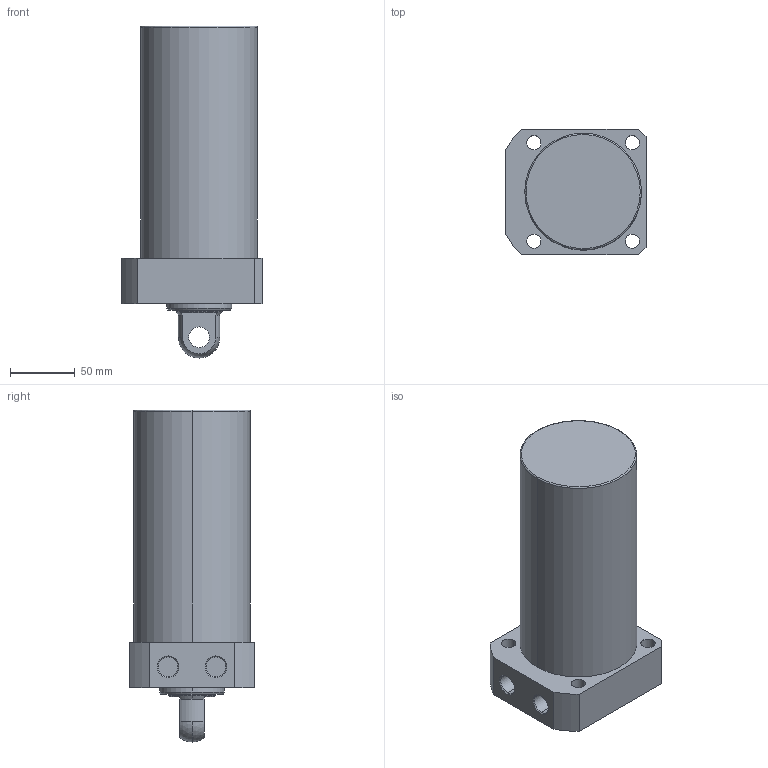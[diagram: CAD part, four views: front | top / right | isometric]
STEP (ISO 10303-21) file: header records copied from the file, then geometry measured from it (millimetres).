
FILE_DESCRIPTION (( 'STEP AP203' ), '1' );
FILE_NAME ('CLLR-090CP-135.STEP', '2019-12-18T06:58:27', ( '' ), ( '' ), 'SwSTEP 2.0', 'SolidWorks 2015', '' );
FILE_SCHEMA (( 'CONFIG_CONTROL_DESIGN' ));
Length unit declared in the file: millimetre
Products named in the file (1): CLLR-090CP-135
Bounding box: 108 x 97 x 256 mm (x, y, z)
Volume: 1502919.2 mm3; surface area: 94676.8 mm2
Topology: 1 solids, 1 shells, 59 faces, 139 edges, 89 vertices
Faces by surface type: cylinder 29, plane 18, cone 8, sphere 2, torus 2
Entity records: 1822 total; most frequent: DIRECTION 331, CARTESIAN_POINT 300, ORIENTED_EDGE 278, EDGE_CURVE 139, AXIS2_PLACEMENT_3D 136, VERTEX_POINT 89, EDGE_LOOP 76, CIRCLE 76
